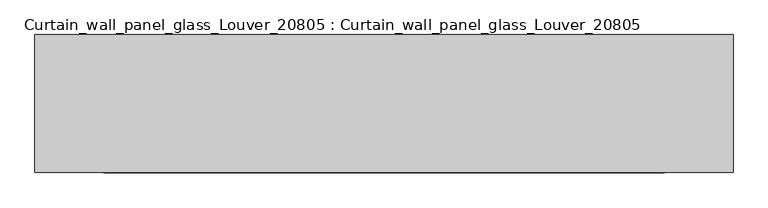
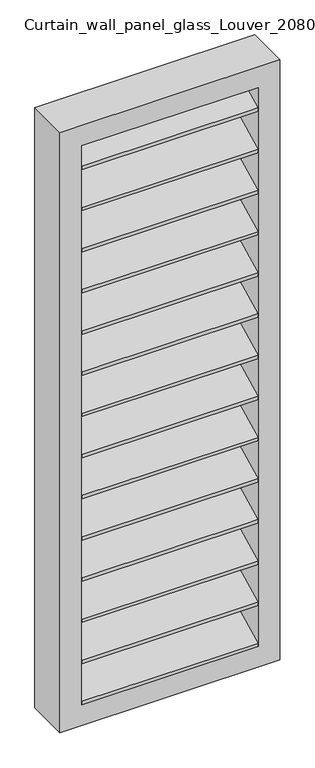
"""IFC4 building model written with IfcOpenShell, lengths in millimetres: plate geometry, Curtain_wall_panel_glass_Louver_20805 : Curtain_wall_panel_glass_Louver_20805."""

from ifc_helpers import new_model, si_unit, frame, origin, place, context, project, spatial, polyline, outline, extrude, source, transform, mapped, element, save


def curtain_wall_panel_glass_louver_20805_curtain_wall_panel_1d079b44(model_context):
    return source(origin(), model_context, "Body", "SweptSolid", [
        extrude(outline(polyline([(200.0, 199.3849981), (0.0, 100.0), (0.0, 116.7499328), (200.0, 216.1349309), (200.0, 199.3849981)])), frame((-406.2500001, 0.0, 0.0), z_axis=(1.0, 0.0, 0.0), x_axis=(0.0, 1.0, 0.0)), (0.0, 0.0, 1.0), 812.5000001),
        extrude(outline(polyline([(200.0, 2808.2500672), (0.0, 2708.8650691), (0.0, 2725.6150019), (200.0, 2825.0), (200.0, 2808.2500672)])), frame((-406.2500001, 0.0, 0.0), z_axis=(1.0, 0.0, 0.0), x_axis=(0.0, 1.0, 0.0)), (0.0, 0.0, 1.0), 812.5000001),
        extrude(outline(polyline([(200.0, 400.0669265), (0.0, 300.6819284), (0.0, 317.4318612), (200.0, 416.8168593), (200.0, 400.0669265)])), frame((-406.2500001, 0.0, 0.0), z_axis=(1.0, 0.0, 0.0), x_axis=(0.0, 1.0, 0.0)), (0.0, 0.0, 1.0), 812.5000001),
        extrude(outline(polyline([(200.0, 600.7488549), (0.0, 501.3638568), (0.0, 518.1137896), (200.0, 617.4987877), (200.0, 600.7488549)])), frame((-406.2500001, 0.0, 0.0), z_axis=(1.0, 0.0, 0.0), x_axis=(0.0, 1.0, 0.0)), (0.0, 0.0, 1.0), 812.5000001),
        extrude(outline(polyline([(200.0, 801.4307833), (0.0, 702.0457852), (0.0, 718.795718), (200.0, 818.1807161), (200.0, 801.4307833)])), frame((-406.2500001, 0.0, 0.0), z_axis=(1.0, 0.0, 0.0), x_axis=(0.0, 1.0, 0.0)), (0.0, 0.0, 1.0), 812.5000001),
        extrude(outline(polyline([(200.0, 1002.1127117), (0.0, 902.7277136), (0.0, 919.4776464), (200.0, 1018.8626445), (200.0, 1002.1127117)])), frame((-406.2500001, 0.0, 0.0), z_axis=(1.0, 0.0, 0.0), x_axis=(0.0, 1.0, 0.0)), (0.0, 0.0, 1.0), 812.5000001),
        extrude(outline(polyline([(200.0, 1202.79464), (0.0, 1103.4096419), (0.0, 1120.1595748), (200.0, 1219.5445729), (200.0, 1202.79464)])), frame((-406.2500001, 0.0, 0.0), z_axis=(1.0, 0.0, 0.0), x_axis=(0.0, 1.0, 0.0)), (0.0, 0.0, 1.0), 812.5000001),
        extrude(outline(polyline([(200.0, 1403.4765684), (0.0, 1304.0915703), (0.0, 1320.8415032), (200.0, 1420.2265013), (200.0, 1403.4765684)])), frame((-406.2500001, 0.0, 0.0), z_axis=(1.0, 0.0, 0.0), x_axis=(0.0, 1.0, 0.0)), (0.0, 0.0, 1.0), 812.5000001),
        extrude(outline(polyline([(200.0, 1604.1584968), (0.0, 1504.7734987), (0.0, 1521.5234316), (200.0, 1620.9084297), (200.0, 1604.1584968)])), frame((-406.2500001, 0.0, 0.0), z_axis=(1.0, 0.0, 0.0), x_axis=(0.0, 1.0, 0.0)), (0.0, 0.0, 1.0), 812.5000001),
        extrude(outline(polyline([(200.0, 1804.8404252), (0.0, 1705.4554271), (0.0, 1722.20536), (200.0, 1821.5903581), (200.0, 1804.8404252)])), frame((-406.2500001, 0.0, 0.0), z_axis=(1.0, 0.0, 0.0), x_axis=(0.0, 1.0, 0.0)), (0.0, 0.0, 1.0), 812.5000001),
        extrude(outline(polyline([(200.0, 2005.5223536), (0.0, 1906.1373555), (0.0, 1922.8872883), (200.0, 2022.2722864), (200.0, 2005.5223536)])), frame((-406.2500001, 0.0, 0.0), z_axis=(1.0, 0.0, 0.0), x_axis=(0.0, 1.0, 0.0)), (0.0, 0.0, 1.0), 812.5000001),
        extrude(outline(polyline([(200.0, 2206.204282), (0.0, 2106.8192839), (0.0, 2123.5692167), (200.0, 2222.9542148), (200.0, 2206.204282)])), frame((-406.2500001, 0.0, 0.0), z_axis=(1.0, 0.0, 0.0), x_axis=(0.0, 1.0, 0.0)), (0.0, 0.0, 1.0), 812.5000001),
        extrude(outline(polyline([(200.0, 2406.8862104), (0.0, 2307.5012123), (0.0, 2324.2511451), (200.0, 2423.6361432), (200.0, 2406.8862104)])), frame((-406.2500001, 0.0, 0.0), z_axis=(1.0, 0.0, 0.0), x_axis=(0.0, 1.0, 0.0)), (0.0, 0.0, 1.0), 812.5000001),
        extrude(outline(polyline([(200.0, 2607.5681388), (0.0, 2508.1831407), (0.0, 2524.9330735), (200.0, 2624.3180716), (200.0, 2607.5681388)])), frame((-406.2500001, 0.0, 0.0), z_axis=(1.0, 0.0, 0.0), x_axis=(0.0, 1.0, 0.0)), (0.0, 0.0, 1.0), 812.5000001),
        extrude(outline(polyline([(2925.0, -506.2500001), (0.0, -506.2500001), (0.0, 506.2500001), (2925.0, 506.2500001), (2925.0, -506.2500001)]), holes=[polyline([(2825.0, -406.2500001), (2825.0, 406.2500001), (100.0, 406.2500001), (100.0, -406.2500001), (2825.0, -406.2500001)])]), frame((0.0, 0.0, 0.0), z_axis=(0.0, 1.0, 0.0), x_axis=(0.0, 0.0, 1.0)), (0.0, 0.0, 1.0), 200.0),
    ])


if __name__ == "__main__":
    model = new_model("IFC4")
    model_context = context("Model", 3, world=origin())
    ifc_project = project(units=[si_unit("LENGTHUNIT", "METRE", prefix="MILLI")], contexts=[model_context])
    site = spatial("IfcSite", under=ifc_project)
    building = spatial("IfcBuilding", under=site)
    placement = place(None, origin())
    curtain_wall_panel_glass_louver_20805_curtain_wall_panel_shape = curtain_wall_panel_glass_louver_20805_curtain_wall_panel_1d079b44(model_context)
    element("IfcPlate", 1, ObjectType="Curtain_wall_panel_glass_Louver_20805 : Curtain_wall_panel_glass_Louver_20805", at=placement, inside=building, context=model_context, shape_type="MappedRepresentation", body=[
        mapped(curtain_wall_panel_glass_louver_20805_curtain_wall_panel_shape, transform((0.0, 0.0, 0.0), x_axis=(1.0, 0.0, 0.0), y_axis=(0.0, 1.0, 0.0), z_axis=(0.0, 0.0, 1.0))),
    ])
    save(model, "model.ifc")
